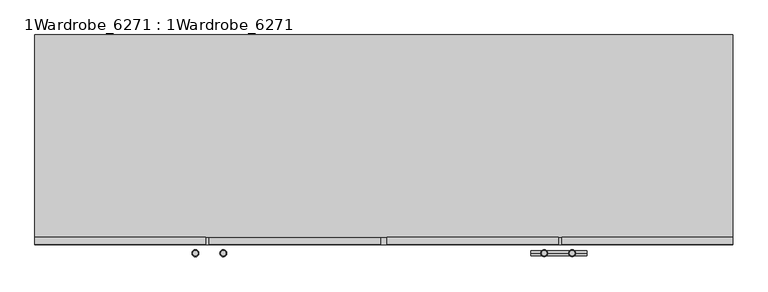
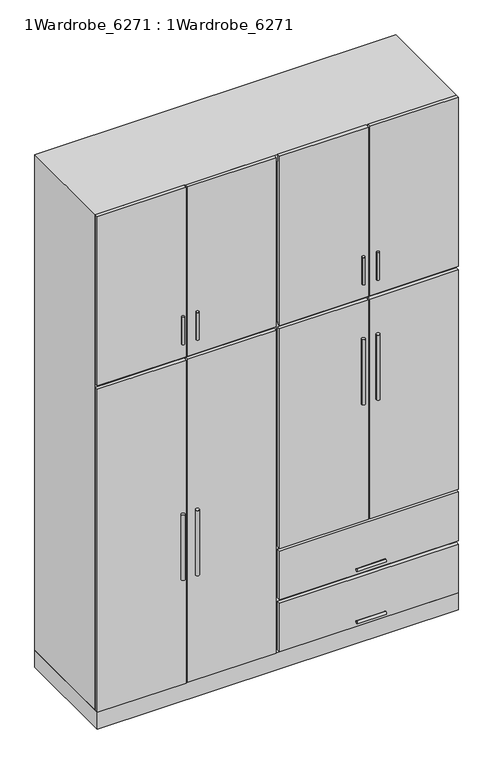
"""IFC4 building model written with IfcOpenShell, lengths in millimetres: furniture geometry, 1Wardrobe_6271 : 1Wardrobe_6271."""

from ifc_helpers import new_model, si_unit, point, frame, frame_2d, origin, origin_with_axes, place, context, project, spatial, polyline, circle_curve, trimmed, segment, composite_curve, outline, extrude, source, transform, mapped, element, save


def furniture_1wardrobe_6271_1wardrobe_6271_757ea330(model_context):
    return source(origin(), model_context, "Body", "SweptSolid", [
        extrude(outline(polyline([(2000.0, -600.0), (1010.0, -600.0), (1010.0, -580.0), (2000.0, -580.0), (2000.0, -600.0)])), frame((0.0, 0.0, 405.0), z_axis=(0.0, 0.0, 1.0), x_axis=(1.0, 0.0, 0.0)), (0.0, 0.0, 1.0), 285.0),
        extrude(outline(composite_curve([segment(trimmed(circle_curve(frame_2d((-624.9990479, 145.2650104)), 7.5), [point((-624.9990479, 137.7650104))], [point((-624.9990479, 152.7650104))], False, "CARTESIAN"), True, "CONTINUOUS"), segment(trimmed(circle_curve(frame_2d((-624.9990479, 145.2650104)), 7.5), [point((-624.9990479, 152.7650104))], [point((-624.9990479, 137.7650104))], False, "CARTESIAN"), True, "CONTINUOUS")], self_intersect=False)), frame((1421.9497928, 0.0, 0.0), z_axis=(1.0, 0.0, 0.0), x_axis=(0.0, 1.0, 0.0)), (0.0, 0.0, 1.0), 160.0),
        extrude(outline(composite_curve([segment(trimmed(circle_curve(frame_2d((-624.9990479, 450.2650104)), 7.5), [point((-624.9990479, 442.7650104))], [point((-624.9990479, 457.7650104))], False, "CARTESIAN"), True, "CONTINUOUS"), segment(trimmed(circle_curve(frame_2d((-624.9990479, 450.2650104)), 7.5), [point((-624.9990479, 457.7650104))], [point((-624.9990479, 442.7650104))], False, "CARTESIAN"), True, "CONTINUOUS")], self_intersect=False)), frame((1421.9497928, 0.0, 0.0), z_axis=(1.0, 0.0, 0.0), x_axis=(0.0, 1.0, 0.0)), (0.0, 0.0, 1.0), 160.0),
        extrude(outline(polyline([(2000.0, -600.0), (1510.0, -600.0), (1510.0, -580.0), (2000.0, -580.0), (2000.0, -600.0)])), frame((0.0, 0.0, 2010.0), z_axis=(0.0, 0.0, 1.0), x_axis=(1.0, 0.0, 0.0)), (0.0, 0.0, 1.0), 990.0),
        extrude(outline(composite_curve([segment(trimmed(circle_curve(frame_2d((540.0564646, -624.9990479)), 7.5), [point((547.5564646, -624.9990479))], [point((532.5564646, -624.9990479))], False, "CARTESIAN"), True, "CONTINUOUS"), segment(trimmed(circle_curve(frame_2d((540.0564646, -624.9990479)), 7.5), [point((532.5564646, -624.9990479))], [point((547.5564646, -624.9990479))], False, "CARTESIAN"), True, "CONTINUOUS")], self_intersect=False)), frame((0.0, 0.0, 2110.0), z_axis=(0.0, 0.0, 1.0), x_axis=(1.0, 0.0, 0.0)), (0.0, 0.0, 1.0), 160.0),
        extrude(outline(composite_curve([segment(trimmed(circle_curve(frame_2d((459.9435354, -624.9990479)), 7.5), [point((452.4435354, -624.9990479))], [point((467.4435354, -624.9990479))], False, "CARTESIAN"), True, "CONTINUOUS"), segment(trimmed(circle_curve(frame_2d((459.9435354, -624.9990479)), 7.5), [point((467.4435354, -624.9990479))], [point((452.4435354, -624.9990479))], False, "CARTESIAN"), True, "CONTINUOUS")], self_intersect=False)), frame((0.0, 0.0, 2110.0), z_axis=(0.0, 0.0, 1.0), x_axis=(1.0, 0.0, 0.0)), (0.0, 0.0, 1.0), 160.0),
        extrude(outline(composite_curve([segment(trimmed(circle_curve(frame_2d((1459.9435354, -624.9990479)), 7.5), [point((1452.4435354, -624.9990479))], [point((1467.4435354, -624.9990479))], False, "CARTESIAN"), True, "CONTINUOUS"), segment(trimmed(circle_curve(frame_2d((1459.9435354, -624.9990479)), 7.5), [point((1467.4435354, -624.9990479))], [point((1452.4435354, -624.9990479))], False, "CARTESIAN"), True, "CONTINUOUS")], self_intersect=False)), frame((0.0, 0.0, 2110.0), z_axis=(0.0, 0.0, 1.0), x_axis=(1.0, 0.0, 0.0)), (0.0, 0.0, 1.0), 160.0),
        extrude(outline(composite_curve([segment(trimmed(circle_curve(frame_2d((1540.0564646, -624.9990479)), 7.5), [point((1547.5564646, -624.9990479))], [point((1532.5564646, -624.9990479))], False, "CARTESIAN"), True, "CONTINUOUS"), segment(trimmed(circle_curve(frame_2d((1540.0564646, -624.9990479)), 7.5), [point((1532.5564646, -624.9990479))], [point((1547.5564646, -624.9990479))], False, "CARTESIAN"), True, "CONTINUOUS")], self_intersect=False)), frame((0.0, 0.0, 2110.0), z_axis=(0.0, 0.0, 1.0), x_axis=(1.0, 0.0, 0.0)), (0.0, 0.0, 1.0), 160.0),
        extrude(outline(polyline([(1500.0, -600.0), (1010.0, -600.0), (1010.0, -580.0), (1500.0, -580.0), (1500.0, -600.0)])), frame((0.0, 0.0, 2010.0), z_axis=(0.0, 0.0, 1.0), x_axis=(1.0, 0.0, 0.0)), (0.0, 0.0, 1.0), 990.0),
        extrude(outline(polyline([(1500.0, -600.0), (1010.0, -600.0), (1010.0, -580.0), (1500.0, -580.0), (1500.0, -600.0)])), frame((0.0, 0.0, 705.0), z_axis=(0.0, 0.0, 1.0), x_axis=(1.0, 0.0, 0.0)), (0.0, 0.0, 1.0), 1285.0),
        extrude(outline(polyline([(2000.0, -600.0), (1510.0, -600.0), (1510.0, -580.0), (2000.0, -580.0), (2000.0, -600.0)])), frame((0.0, 0.0, 705.0), z_axis=(0.0, 0.0, 1.0), x_axis=(1.0, 0.0, 0.0)), (0.0, 0.0, 1.0), 1285.0),
        extrude(outline(polyline([(990.0, -600.0), (500.0, -600.0), (500.0, -580.0), (990.0, -580.0), (990.0, -600.0)])), frame((0.0, 0.0, 100.0), z_axis=(0.0, 0.0, 1.0), x_axis=(1.0, 0.0, 0.0)), (0.0, 0.0, 1.0), 1890.0),
        extrude(outline(polyline([(490.0, -600.0), (0.0, -600.0), (0.0, -580.0), (490.0, -580.0), (490.0, -600.0)])), frame((0.0, 0.0, 2010.0), z_axis=(0.0, 0.0, 1.0), x_axis=(1.0, 0.0, 0.0)), (0.0, 0.0, 1.0), 990.0),
        extrude(outline(composite_curve([segment(trimmed(circle_curve(frame_2d((1540.0, -625.0)), 10.0), [point((1530.0, -625.0))], [point((1550.0, -625.0))], False, "CARTESIAN"), True, "CONTINUOUS"), segment(trimmed(circle_curve(frame_2d((1540.0, -625.0)), 10.0), [point((1550.0, -625.0))], [point((1530.0, -625.0))], False, "CARTESIAN"), True, "CONTINUOUS")], self_intersect=False)), frame((0.0, 0.0, 1410.0), z_axis=(0.0, 0.0, 1.0), x_axis=(1.0, 0.0, 0.0)), (0.0, 0.0, 1.0), 380.0),
        extrude(outline(composite_curve([segment(trimmed(circle_curve(frame_2d((1460.0, -625.0)), 10.0), [point((1470.0, -625.0))], [point((1450.0, -625.0))], False, "CARTESIAN"), True, "CONTINUOUS"), segment(trimmed(circle_curve(frame_2d((1460.0, -625.0)), 10.0), [point((1450.0, -625.0))], [point((1470.0, -625.0))], False, "CARTESIAN"), True, "CONTINUOUS")], self_intersect=False)), frame((0.0, 0.0, 1410.0), z_axis=(0.0, 0.0, 1.0), x_axis=(1.0, 0.0, 0.0)), (0.0, 0.0, 1.0), 380.0),
        extrude(outline(composite_curve([segment(trimmed(circle_curve(frame_2d((540.0, -625.0)), 10.0), [point((530.0, -625.0))], [point((550.0, -625.0))], False, "CARTESIAN"), True, "CONTINUOUS"), segment(trimmed(circle_curve(frame_2d((540.0, -625.0)), 10.0), [point((550.0, -625.0))], [point((530.0, -625.0))], False, "CARTESIAN"), True, "CONTINUOUS")], self_intersect=False)), frame((0.0, 0.0, 733.2017452), z_axis=(0.0, 0.0, 1.0), x_axis=(1.0, 0.0, 0.0)), (0.0, 0.0, 1.0), 380.0),
        extrude(outline(composite_curve([segment(trimmed(circle_curve(frame_2d((460.0, -625.0)), 10.0), [point((470.0, -625.0))], [point((450.0, -625.0))], False, "CARTESIAN"), True, "CONTINUOUS"), segment(trimmed(circle_curve(frame_2d((460.0, -625.0)), 10.0), [point((450.0, -625.0))], [point((470.0, -625.0))], False, "CARTESIAN"), True, "CONTINUOUS")], self_intersect=False)), frame((0.0, 0.0, 733.2017452), z_axis=(0.0, 0.0, 1.0), x_axis=(1.0, 0.0, 0.0)), (0.0, 0.0, 1.0), 380.0),
        extrude(outline(polyline([(1000.0, -580.0), (40.0, -580.0), (40.0, -20.0), (1000.0, -20.0), (1000.0, -580.0)])), frame((0.0, 0.0, 1980.0), z_axis=(0.0, 0.0, 1.0), x_axis=(1.0, 0.0, 0.0)), (0.0, 0.0, 1.0), 40.0),
        extrude(outline(polyline([(1960.0, -580.0), (950.0, -580.0), (950.0, -20.0), (1960.0, -20.0), (1960.0, -580.0)])), frame((0.0, 0.0, 1980.0), z_axis=(0.0, 0.0, 1.0), x_axis=(1.0, 0.0, 0.0)), (0.0, 0.0, 1.0), 40.0),
        extrude(outline(polyline([(960.0, -580.0), (40.0, -580.0), (40.0, -20.0), (960.0, -20.0), (960.0, -580.0)])), frame((0.0, 0.0, 2500.0), z_axis=(0.0, 0.0, 1.0), x_axis=(1.0, 0.0, 0.0)), (0.0, 0.0, 1.0), 40.0),
        extrude(outline(polyline([(1000.0, -580.0), (960.0, -580.0), (960.0, -20.0), (1000.0, -20.0), (1000.0, -580.0)])), frame((0.0, 0.0, 100.0), z_axis=(0.0, 0.0, 1.0), x_axis=(1.0, 0.0, 0.0)), (0.0, 0.0, 1.0), 2860.0),
        extrude(outline(polyline([(1960.0, -20.0), (40.0, -20.0), (40.0, 0.0), (1960.0, 0.0), (1960.0, -20.0)])), frame((0.0, 0.0, 100.0), z_axis=(0.0, 0.0, 1.0), x_axis=(1.0, 0.0, 0.0)), (0.0, 0.0, 1.0), 2860.0),
        extrude(outline(polyline([(3000.0, 0.0), (100.0, 0.0), (100.0, 40.0), (2960.0, 40.0), (2960.0, 1960.0), (100.0, 1960.0), (100.0, 2000.0), (3000.0, 2000.0), (3000.0, 0.0)])), frame((0.0, -580.0, 0.0), z_axis=(0.0, 1.0, 0.0), x_axis=(0.0, 0.0, 1.0)), (0.0, 0.0, 1.0), 580.0),
        extrude(outline(polyline([(2000.0, -600.0), (1010.0, -600.0), (1010.0, -580.0), (2000.0, -580.0), (2000.0, -600.0)])), frame((0.0, 0.0, 100.0), z_axis=(0.0, 0.0, 1.0), x_axis=(1.0, 0.0, 0.0)), (0.0, 0.0, 1.0), 285.0),
        extrude(outline(polyline([(990.0, -600.0), (500.0, -600.0), (500.0, -580.0), (990.0, -580.0), (990.0, -600.0)])), frame((0.0, 0.0, 2010.0), z_axis=(0.0, 0.0, 1.0), x_axis=(1.0, 0.0, 0.0)), (0.0, 0.0, 1.0), 990.0),
        extrude(outline(polyline([(490.0, -600.0), (0.0, -600.0), (0.0, -580.0), (490.0, -580.0), (490.0, -600.0)])), frame((0.0, 0.0, 100.0), z_axis=(0.0, 0.0, 1.0), x_axis=(1.0, 0.0, 0.0)), (0.0, 0.0, 1.0), 1890.0),
        extrude(outline(polyline([(2000.0, -600.0), (0.0, -600.0), (0.0, 0.0), (2000.0, 0.0), (2000.0, -600.0)])), origin_with_axes(), (0.0, 0.0, 1.0), 100.0),
    ])


if __name__ == "__main__":
    model = new_model("IFC4")
    model_context = context("Model", 3, world=origin())
    ifc_project = project(units=[si_unit("LENGTHUNIT", "METRE", prefix="MILLI")], contexts=[model_context])
    site = spatial("IfcSite", under=ifc_project)
    building = spatial("IfcBuilding", under=site)
    placement = place(None, origin())
    furniture_1wardrobe_6271_1wardrobe_6271_shape = furniture_1wardrobe_6271_1wardrobe_6271_757ea330(model_context)
    element("IfcFurniture", 1, ObjectType="1Wardrobe_6271 : 1Wardrobe_6271", at=placement, inside=building, context=model_context, shape_type="MappedRepresentation", body=[
        mapped(furniture_1wardrobe_6271_1wardrobe_6271_shape, transform((0.0, 0.0, 0.0), x_axis=(1.0, 0.0, 0.0), y_axis=(0.0, 1.0, 0.0), z_axis=(0.0, 0.0, 1.0))),
    ])
    save(model, "model.ifc")
